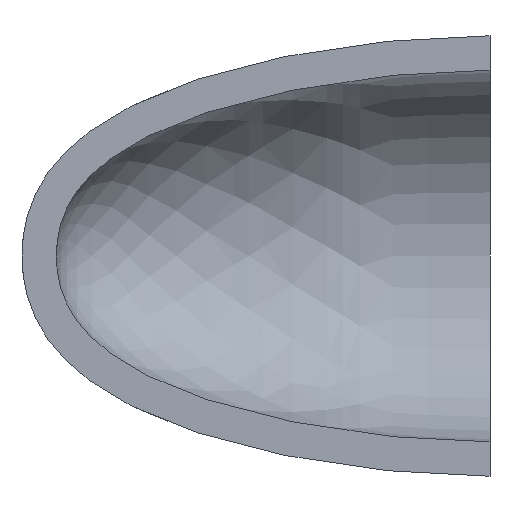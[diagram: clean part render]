
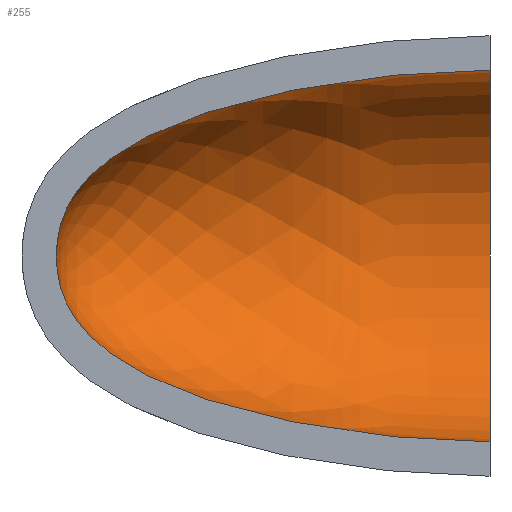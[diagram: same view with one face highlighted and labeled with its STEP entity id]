
A CAD part, left-side view. The second image highlights one B-rep face of the part: STEP entity #255.
In plain terms, the highlighted face is a revolution surface.
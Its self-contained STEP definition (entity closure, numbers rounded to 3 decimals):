
#100=CARTESIAN_POINT('Axis2P3D Location',(0.,0.,0.)) ;
#104=CARTESIAN_POINT('Vertex',(0.,0.,54.)) ;
#106=CARTESIAN_POINT('Vertex',(0.,0.,-54.)) ;
#132=CARTESIAN_POINT('Control Point',(0.,0.,-54.)) ;
#133=CARTESIAN_POINT('Control Point',(0.,2.322,-54.)) ;
#134=CARTESIAN_POINT('Control Point',(0.,4.673,-53.971)) ;
#135=CARTESIAN_POINT('Control Point',(0.,7.05,-53.913)) ;
#136=CARTESIAN_POINT('Control Point',(0.,12.051,-53.735)) ;
#137=CARTESIAN_POINT('Control Point',(0.,17.143,-53.441)) ;
#138=CARTESIAN_POINT('Control Point',(0.,19.812,-53.257)) ;
#139=CARTESIAN_POINT('Control Point',(0.,25.483,-52.804)) ;
#140=CARTESIAN_POINT('Control Point',(0.,31.219,-52.216)) ;
#141=CARTESIAN_POINT('Control Point',(0.,34.251,-51.87)) ;
#142=CARTESIAN_POINT('Control Point',(0.,41.096,-51.004)) ;
#143=CARTESIAN_POINT('Control Point',(0.,47.969,-49.942)) ;
#144=CARTESIAN_POINT('Control Point',(0.,51.788,-49.289)) ;
#145=CARTESIAN_POINT('Control Point',(0.,59.535,-47.827)) ;
#146=CARTESIAN_POINT('Control Point',(0.,67.207,-46.075)) ;
#147=CARTESIAN_POINT('Control Point',(0.,71.075,-45.106)) ;
#148=CARTESIAN_POINT('Control Point',(0.,79.979,-42.647)) ;
#149=CARTESIAN_POINT('Control Point',(0.,88.559,-39.678)) ;
#150=CARTESIAN_POINT('Control Point',(0.,93.312,-37.798)) ;
#151=CARTESIAN_POINT('Control Point',(0.,99.897,-34.776)) ;
#152=CARTESIAN_POINT('Control Point',(0.,105.87,-31.282)) ;
#153=CARTESIAN_POINT('Control Point',(0.,107.653,-30.154)) ;
#154=CARTESIAN_POINT('Control Point',(0.,110.868,-27.938)) ;
#155=CARTESIAN_POINT('Control Point',(0.,113.778,-25.557)) ;
#156=CARTESIAN_POINT('Control Point',(0.,115.07,-24.402)) ;
#157=CARTESIAN_POINT('Control Point',(0.,117.134,-22.374)) ;
#158=CARTESIAN_POINT('Control Point',(0.,118.949,-20.247)) ;
#159=CARTESIAN_POINT('Control Point',(0.,119.655,-19.351)) ;
#160=CARTESIAN_POINT('Control Point',(0.,120.964,-17.542)) ;
#161=CARTESIAN_POINT('Control Point',(0.,122.092,-15.667)) ;
#162=CARTESIAN_POINT('Control Point',(0.,122.606,-14.722)) ;
#163=CARTESIAN_POINT('Control Point',(0.,123.691,-12.492)) ;
#164=CARTESIAN_POINT('Control Point',(0.,124.536,-10.161)) ;
#165=CARTESIAN_POINT('Control Point',(0.,124.939,-8.802)) ;
#166=CARTESIAN_POINT('Control Point',(0.,125.522,-6.292)) ;
#167=CARTESIAN_POINT('Control Point',(0.,125.854,-3.654)) ;
#168=CARTESIAN_POINT('Control Point',(0.,125.951,-2.461)) ;
#169=CARTESIAN_POINT('Control Point',(0.,126.,-1.242)) ;
#170=CARTESIAN_POINT('Control Point',(0.,126.,0.)) ;
#171=CARTESIAN_POINT('Vertex',(0.,126.,0.)) ;
#175=CARTESIAN_POINT('Control Point',(0.,0.,54.)) ;
#176=CARTESIAN_POINT('Control Point',(0.,2.322,54.)) ;
#177=CARTESIAN_POINT('Control Point',(0.,4.673,53.971)) ;
#178=CARTESIAN_POINT('Control Point',(0.,7.05,53.913)) ;
#179=CARTESIAN_POINT('Control Point',(0.,12.051,53.735)) ;
#180=CARTESIAN_POINT('Control Point',(0.,17.143,53.441)) ;
#181=CARTESIAN_POINT('Control Point',(0.,19.812,53.257)) ;
#182=CARTESIAN_POINT('Control Point',(0.,25.483,52.804)) ;
#183=CARTESIAN_POINT('Control Point',(0.,31.219,52.216)) ;
#184=CARTESIAN_POINT('Control Point',(0.,34.251,51.87)) ;
#185=CARTESIAN_POINT('Control Point',(0.,41.096,51.004)) ;
#186=CARTESIAN_POINT('Control Point',(0.,47.969,49.942)) ;
#187=CARTESIAN_POINT('Control Point',(0.,51.788,49.289)) ;
#188=CARTESIAN_POINT('Control Point',(0.,59.535,47.827)) ;
#189=CARTESIAN_POINT('Control Point',(0.,67.207,46.075)) ;
#190=CARTESIAN_POINT('Control Point',(0.,71.075,45.106)) ;
#191=CARTESIAN_POINT('Control Point',(0.,79.979,42.647)) ;
#192=CARTESIAN_POINT('Control Point',(0.,88.559,39.678)) ;
#193=CARTESIAN_POINT('Control Point',(0.,93.312,37.798)) ;
#194=CARTESIAN_POINT('Control Point',(0.,99.897,34.776)) ;
#195=CARTESIAN_POINT('Control Point',(0.,105.87,31.282)) ;
#196=CARTESIAN_POINT('Control Point',(0.,107.653,30.154)) ;
#197=CARTESIAN_POINT('Control Point',(0.,110.868,27.938)) ;
#198=CARTESIAN_POINT('Control Point',(0.,113.778,25.557)) ;
#199=CARTESIAN_POINT('Control Point',(0.,115.07,24.402)) ;
#200=CARTESIAN_POINT('Control Point',(0.,117.134,22.374)) ;
#201=CARTESIAN_POINT('Control Point',(0.,118.949,20.247)) ;
#202=CARTESIAN_POINT('Control Point',(0.,119.655,19.351)) ;
#203=CARTESIAN_POINT('Control Point',(0.,120.964,17.542)) ;
#204=CARTESIAN_POINT('Control Point',(0.,122.092,15.667)) ;
#205=CARTESIAN_POINT('Control Point',(0.,122.606,14.722)) ;
#206=CARTESIAN_POINT('Control Point',(0.,123.691,12.492)) ;
#207=CARTESIAN_POINT('Control Point',(0.,124.536,10.161)) ;
#208=CARTESIAN_POINT('Control Point',(0.,124.939,8.802)) ;
#209=CARTESIAN_POINT('Control Point',(0.,125.522,6.292)) ;
#210=CARTESIAN_POINT('Control Point',(0.,125.854,3.654)) ;
#211=CARTESIAN_POINT('Control Point',(0.,125.951,2.461)) ;
#212=CARTESIAN_POINT('Control Point',(0.,126.,1.242)) ;
#213=CARTESIAN_POINT('Control Point',(0.,126.,0.)) ;
#225=CARTESIAN_POINT('Control Point',(0.,0.,54.)) ;
#226=CARTESIAN_POINT('Control Point',(0.,7.201,54.)) ;
#227=CARTESIAN_POINT('Control Point',(0.,14.923,53.717)) ;
#228=CARTESIAN_POINT('Control Point',(0.,23.145,53.145)) ;
#229=CARTESIAN_POINT('Control Point',(0.,40.309,51.38)) ;
#230=CARTESIAN_POINT('Control Point',(0.,58.122,48.268)) ;
#231=CARTESIAN_POINT('Control Point',(0.,66.993,46.35)) ;
#232=CARTESIAN_POINT('Control Point',(0.,79.855,42.876)) ;
#233=CARTESIAN_POINT('Control Point',(0.,91.445,38.502)) ;
#234=CARTESIAN_POINT('Control Point',(0.,95.133,36.944)) ;
#235=CARTESIAN_POINT('Control Point',(0.,102.091,33.632)) ;
#236=CARTESIAN_POINT('Control Point',(0.,108.097,29.957)) ;
#237=CARTESIAN_POINT('Control Point',(0.,110.833,28.036)) ;
#238=CARTESIAN_POINT('Control Point',(0.,115.725,24.055)) ;
#239=CARTESIAN_POINT('Control Point',(0.,119.45,19.828)) ;
#240=CARTESIAN_POINT('Control Point',(0.,121.017,17.662)) ;
#241=CARTESIAN_POINT('Control Point',(0.,123.61,13.209)) ;
#242=CARTESIAN_POINT('Control Point',(0.,125.175,8.35)) ;
#243=CARTESIAN_POINT('Control Point',(0.,125.716,5.777)) ;
#244=CARTESIAN_POINT('Control Point',(0.,126.,3.002)) ;
#245=CARTESIAN_POINT('Control Point',(0.,126.,0.)) ;
#246=CARTESIAN_POINT('Axis1P Location',(0.,0.,0.)) ;
#101=DIRECTION('Axis2P3D Direction',(0.,1.,0.)) ;
#247=DIRECTION('Axis1P Direction',(0.,1.,0.)) ;
#102=AXIS2_PLACEMENT_3D('Circle Axis2P3D',#100,#101,$) ;
#251=ORIENTED_EDGE('',*,*,#108,.F.) ;
#252=ORIENTED_EDGE('',*,*,#214,.T.) ;
#253=ORIENTED_EDGE('',*,*,#173,.F.) ;
#255=ADVANCED_FACE('PartBody',(#254),#249,.F.) ;
#248=AXIS1_PLACEMENT('Revolution Surface Axis1P',#246,#247) ;
#131=B_SPLINE_CURVE_WITH_KNOTS('',5,(#132,#133,#134,#135,#136,#137,#138,#139,#140,#141,#142,#143,#144,#145,#146,#147,#148,#149,#150,#151,#152,#153,#154,#155,#156,#157,#158,#159,#160,#161,#162,#163,#164,#165,#166,#167,#168,#169,#170),.UNSPECIFIED.,.F.,.U.,(6,3,3,3,3,3,3,3,3,3,3,3,6),(0.,16.785,34.976,55.177,80.441,106.539,141.186,156.718,170.469,180.165,189.69,202.222,212.173),.UNSPECIFIED.) ;
#174=B_SPLINE_CURVE_WITH_KNOTS('',5,(#175,#176,#177,#178,#179,#180,#181,#182,#183,#184,#185,#186,#187,#188,#189,#190,#191,#192,#193,#194,#195,#196,#197,#198,#199,#200,#201,#202,#203,#204,#205,#206,#207,#208,#209,#210,#211,#212,#213),.UNSPECIFIED.,.F.,.U.,(6,3,3,3,3,3,3,3,3,3,3,3,6),(0.,16.785,34.976,55.177,80.441,106.539,141.186,156.718,170.469,180.165,189.69,202.222,212.173),.UNSPECIFIED.) ;
#224=B_SPLINE_CURVE_WITH_KNOTS('',5,(#225,#226,#227,#228,#229,#230,#231,#232,#233,#234,#235,#236,#237,#238,#239,#240,#241,#242,#243,#244,#245),.UNSPECIFIED.,.F.,.U.,(6,3,3,3,3,3,6),(0.,37.577,75.153,93.941,112.73,131.518,150.306),.UNSPECIFIED.) ;
#103=CIRCLE('generated circle',#102,54.) ;
#108=EDGE_CURVE('',#105,#107,#103,.T.) ;
#173=EDGE_CURVE('',#107,#172,#131,.T.) ;
#214=EDGE_CURVE('',#105,#172,#174,.T.) ;
#250=EDGE_LOOP('',(#251,#252,#253)) ;
#254=FACE_OUTER_BOUND('',#250,.T.) ;
#249=SURFACE_OF_REVOLUTION('Surface of Revolution',#224,#248) ;
#105=VERTEX_POINT('',#104) ;
#107=VERTEX_POINT('',#106) ;
#172=VERTEX_POINT('',#171) ;
